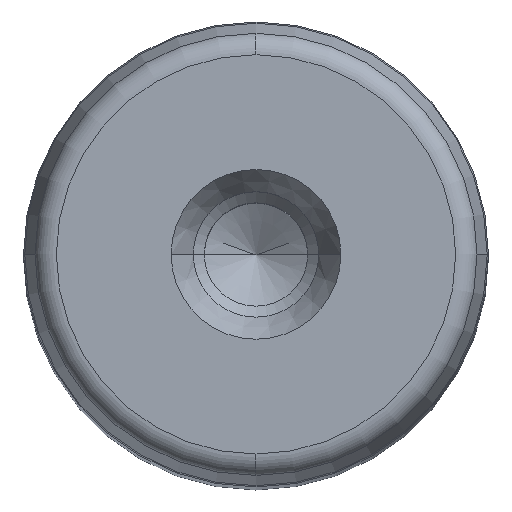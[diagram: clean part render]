
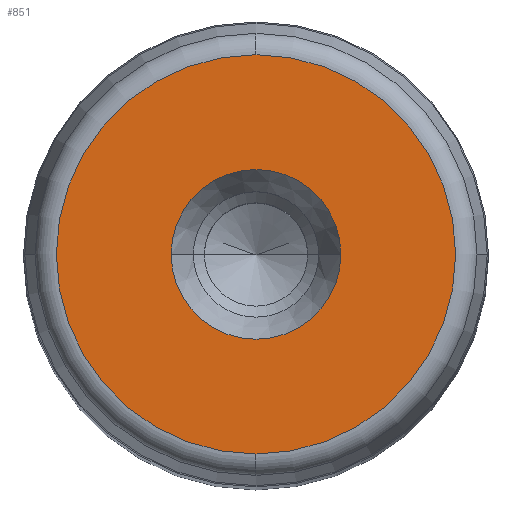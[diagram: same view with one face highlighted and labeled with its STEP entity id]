
A CAD part, top view. The second image highlights one B-rep face of the part: STEP entity #851.
In plain terms, the highlighted planar face has unit normal (0, 0, 1) as drawn and (0, 1, 0) by its records, which use the part's own axes.
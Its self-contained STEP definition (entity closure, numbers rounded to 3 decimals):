
#281=CARTESIAN_POINT('',(11.5,250.0,0.0));
#282=VERTEX_POINT('',#281);
#289=CARTESIAN_POINT('',(-11.5,250.0,0.));
#290=VERTEX_POINT('',#289);
#291=CARTESIAN_POINT('',(0.0,250.0,0.0));
#292=DIRECTION('',(0.0,1.0,0.0));
#293=DIRECTION('',(1.0,0.0,0.0));
#294=AXIS2_PLACEMENT_3D('',#291,#292,#293);
#295=CIRCLE('',#294,11.5);
#296=EDGE_CURVE('',#282,#290,#295,.T.);
#313=CARTESIAN_POINT('',(0.0,250.0,27.054));
#314=VERTEX_POINT('',#313);
#324=CARTESIAN_POINT('',(0.,250.0,-27.054));
#325=VERTEX_POINT('',#324);
#326=CARTESIAN_POINT('',(0.0,250.0,0.0));
#327=DIRECTION('',(0.0,1.0,0.0));
#328=DIRECTION('',(1.0,0.0,0.0));
#329=AXIS2_PLACEMENT_3D('',#326,#327,#328);
#330=CIRCLE('',#329,27.054);
#331=EDGE_CURVE('',#325,#314,#330,.T.);
#812=CARTESIAN_POINT('',(27.054,250.0,0.0));
#813=VERTEX_POINT('',#812);
#814=CARTESIAN_POINT('',(0.0,250.0,0.0));
#815=DIRECTION('',(0.0,1.0,0.0));
#816=DIRECTION('',(1.0,0.0,0.0));
#817=AXIS2_PLACEMENT_3D('',#814,#815,#816);
#818=CIRCLE('',#817,27.054);
#819=EDGE_CURVE('',#813,#325,#818,.T.);
#821=CARTESIAN_POINT('',(0.0,250.0,0.0));
#822=DIRECTION('',(0.0,1.0,0.0));
#823=DIRECTION('',(1.0,0.0,0.0));
#824=AXIS2_PLACEMENT_3D('',#821,#822,#823);
#825=CIRCLE('',#824,27.054);
#826=EDGE_CURVE('',#314,#813,#825,.T.);
#831=CARTESIAN_POINT('',(-29.76,250.0,-29.76));
#832=DIRECTION('',(0.0,1.0,0.0));
#833=DIRECTION('',(0.0,0.0,1.0));
#834=AXIS2_PLACEMENT_3D('',#831,#832,#833);
#835=PLANE('',#834);
#836=ORIENTED_EDGE('',*,*,#819,.T.);
#837=ORIENTED_EDGE('',*,*,#331,.T.);
#838=ORIENTED_EDGE('',*,*,#826,.T.);
#839=EDGE_LOOP('',(#836,#837,#838));
#840=FACE_OUTER_BOUND('',#839,.T.);
#841=ORIENTED_EDGE('',*,*,#296,.F.);
#842=CARTESIAN_POINT('',(0.0,250.0,0.0));
#843=DIRECTION('',(0.0,1.0,0.0));
#844=DIRECTION('',(1.0,0.0,0.0));
#845=AXIS2_PLACEMENT_3D('',#842,#843,#844);
#846=CIRCLE('',#845,11.5);
#847=EDGE_CURVE('',#290,#282,#846,.T.);
#848=ORIENTED_EDGE('',*,*,#847,.F.);
#849=EDGE_LOOP('',(#841,#848));
#850=FACE_BOUND('',#849,.T.);
#851=ADVANCED_FACE('',(#840,#850),#835,.T.);
